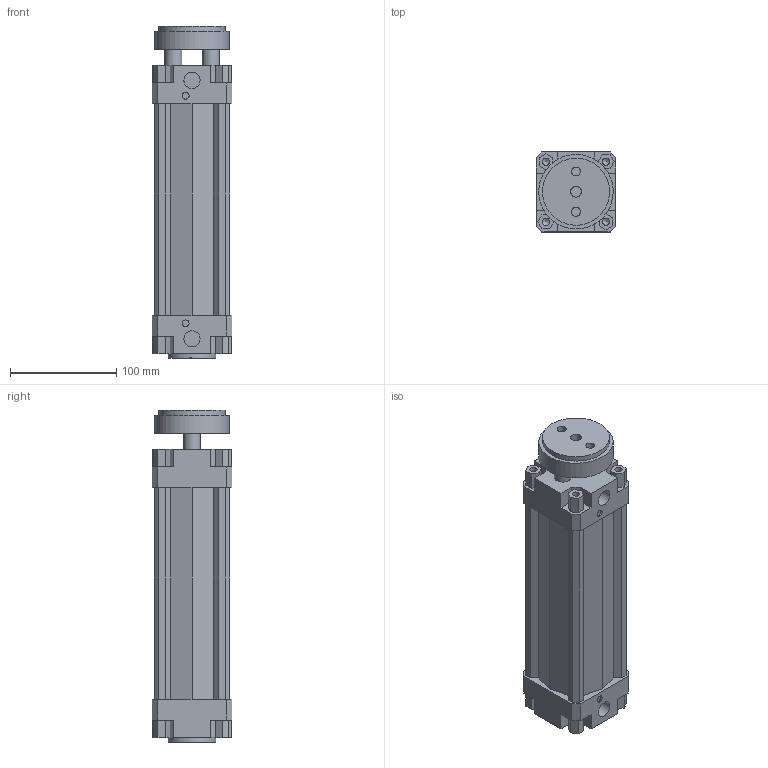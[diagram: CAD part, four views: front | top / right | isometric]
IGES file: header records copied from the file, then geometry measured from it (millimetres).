
Global section: file name: 132#_063_0150_01; native system: Autodesk Inventor 2014; preprocessor: unknown; author: A. Manieri; date: 20161006.155940; units: millimetre
Bounding box: 75 x 75 x 312 mm (x, y, z)
Volume: 915059.7 mm3; surface area: 202106.3 mm2
Topology: 2 solids, 2 shells, 180 faces, 491 edges, 335 vertices
Faces by surface type: bspline 180
